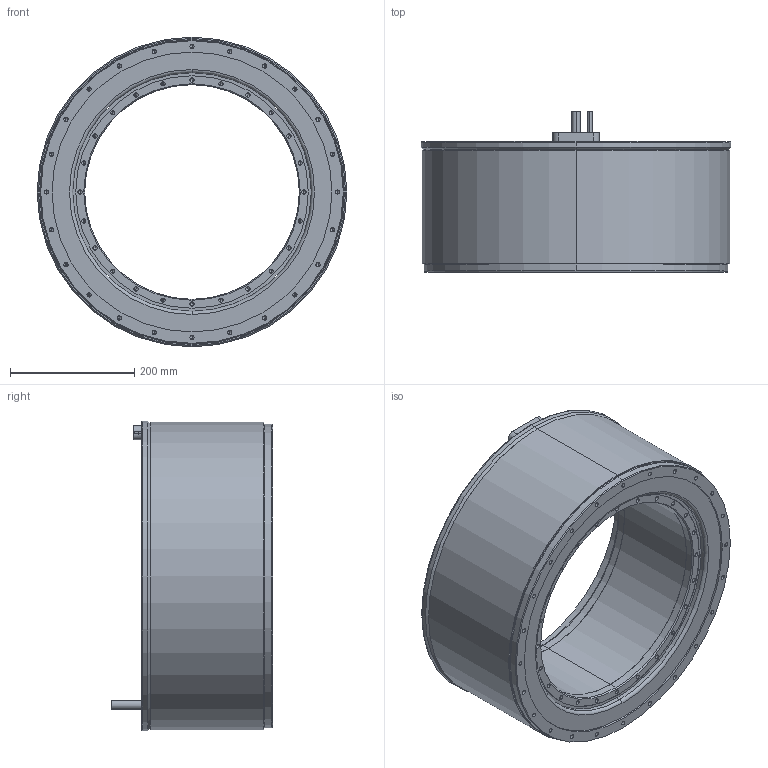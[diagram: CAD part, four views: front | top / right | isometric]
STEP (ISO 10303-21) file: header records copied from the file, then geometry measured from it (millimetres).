
FILE_DESCRIPTION (( 'STEP AP203' ), '1' );
FILE_NAME ('TM-2-DH-SB0(J0).STEP', '2023-06-06T03:13:03', ( '' ), ( '' ), 'SwSTEP 2.0', 'SolidWorks 2015', '' );
FILE_SCHEMA (( 'CONFIG_CONTROL_DESIGN' ));
Length unit declared in the file: millimetre
Products named in the file (3): TM-2-DH(J0)_Rotor; TM-2-DH-SB0(J0)_Stator; TM-2-DH-SB0(J0)
Assembly tree (2 placements, depth 2):
  TM-2-DH-SB0(J0)
    TM-2-DH-SB0(J0)_Stator
    TM-2-DH(J0)_Rotor
Bounding box: 498 x 259 x 498 mm (x, y, z)
Volume: 19357333.1 mm3; surface area: 1218708.9 mm2
Topology: 2 solids, 2 shells, 523 faces, 1266 edges, 670 vertices
Faces by surface type: cylinder 248, cone 216, plane 51, torus 8
Entity records: 14111 total; most frequent: DIRECTION 2660, CARTESIAN_POINT 2268, ORIENTED_EDGE 2140, EDGE_CURVE 1070, AXIS2_PLACEMENT_3D 1062, VERTEX_POINT 670, EDGE_LOOP 646, LINE 536
